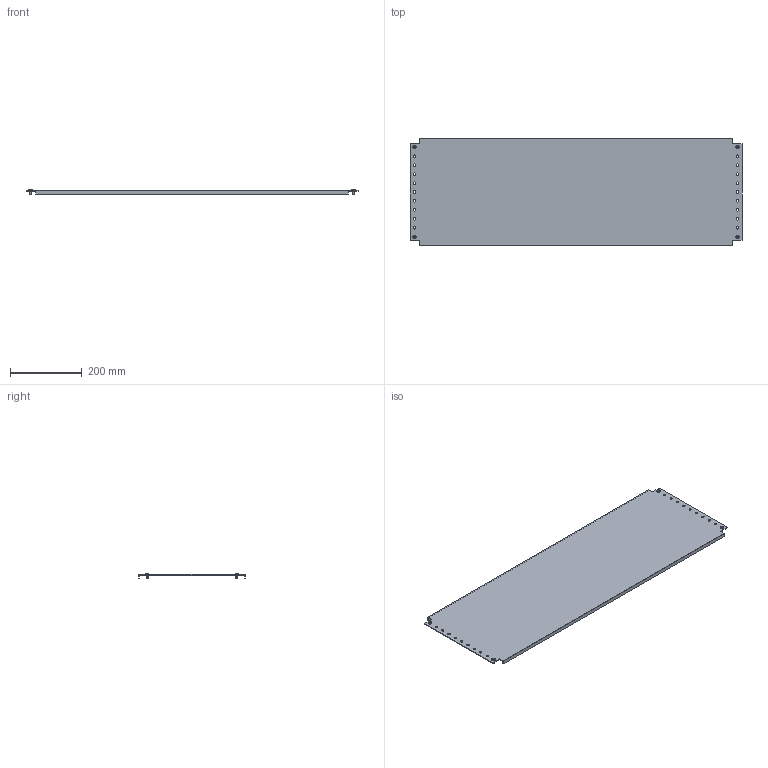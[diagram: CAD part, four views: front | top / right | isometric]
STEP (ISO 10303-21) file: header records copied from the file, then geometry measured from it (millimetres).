
FILE_DESCRIPTION (( 'STEP AP203' ), '1' );
FILE_NAME ('R6MPP031000.STEP', '2025-05-16T08:12:27', ( '' ), ( '' ), 'SwSTEP 2.0', 'SolidWorks 2022', '' );
FILE_SCHEMA (( 'CONFIG_CONTROL_DESIGN' ));
Length unit declared in the file: millimetre
Products named in the file (3): RB.3313.00.00.0 simple_-09; M5x12 DIN 7500 C Torx Zinc_stright; R6MPP031000
Assembly tree (5 placements, depth 2):
  R6MPP031000
    RB.3313.00.00.0 simple_-09
    M5x12 DIN 7500 C Torx Zinc_stright  x4
Bounding box: 925 x 298 x 15.55 mm (x, y, z)
Volume: 519330 mm3; surface area: 582139.6 mm2
Topology: 5 solids, 5 shells, 166 faces, 404 edges, 244 vertices
Faces by surface type: cylinder 60, plane 58, cone 16, torus 16, bspline 8, sphere 8
Entity records: 3647 total; most frequent: CARTESIAN_POINT 729, DIRECTION 558, ORIENTED_EDGE 504, EDGE_CURVE 252, AXIS2_PLACEMENT_3D 216, VERTEX_POINT 163, EDGE_LOOP 139, VECTOR 126
